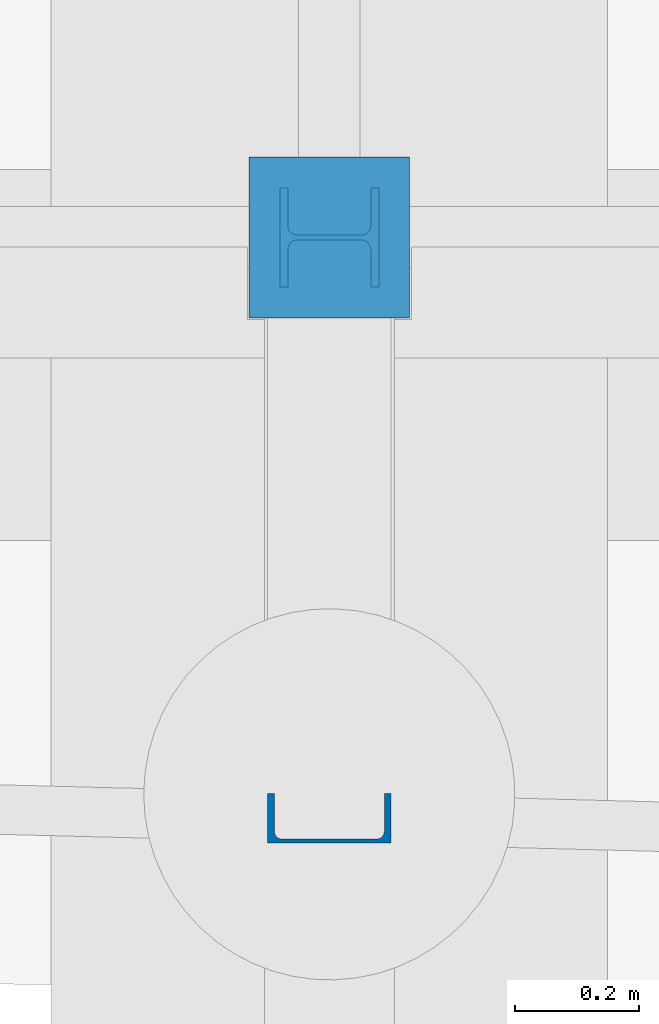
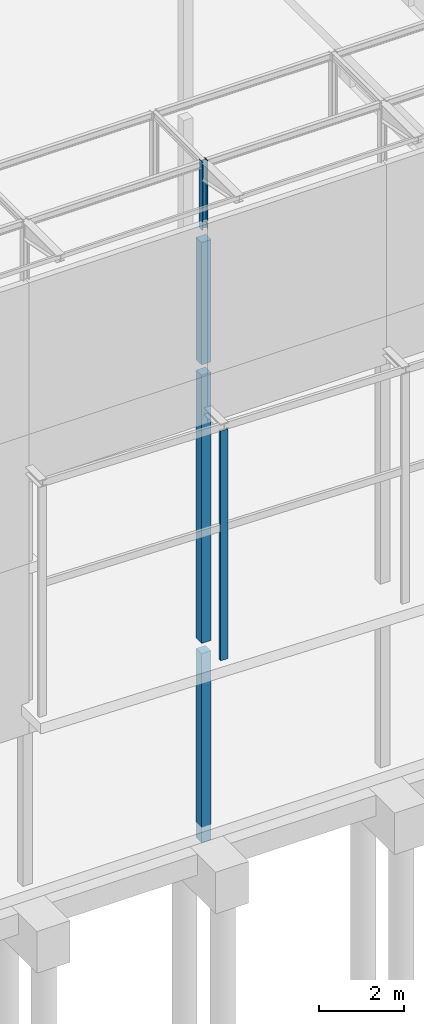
# One storey, part 7 of 82: 5 columns.
"""IFC2X3 building model written with IfcOpenShell, lengths in millimetres."""

from ifc_helpers import new_model, si_unit, frame, frame_2d, origin_with_axes, place, context, subcontext, project, spatial, rectangle, i_section, u_section, extrude, material, type_object, element, save


model = new_model("IFC2X3")

# Units and contexts
model_context = context("Model", 3, precision=1e-05, world=origin_with_axes())
body_context = subcontext(model_context, "Body", "Model", "MODEL_VIEW")
ifc_project = project(units=[si_unit("LENGTHUNIT", "METRE", prefix="MILLI"), si_unit("AREAUNIT", "SQUARE_METRE"), si_unit("VOLUMEUNIT", "CUBIC_METRE"), si_unit("MASSUNIT", "GRAM", prefix="KILO"), si_unit("TIMEUNIT", "SECOND"), si_unit("PLANEANGLEUNIT", "RADIAN"), si_unit("SOLIDANGLEUNIT", "STERADIAN"), si_unit("THERMODYNAMICTEMPERATUREUNIT", "DEGREE_CELSIUS"), si_unit("LUMINOUSINTENSITYUNIT", "LUMEN")], contexts=[model_context])

# Site, building, storey
site_placement = place(None, origin_with_axes())
site = spatial("IfcSite", under=ifc_project, at=site_placement, Name="Undefined", CompositionType="ELEMENT")
building_placement = place(site_placement, origin_with_axes())
building = spatial("IfcBuilding", under=site, at=building_placement, Name="Undefined", CompositionType="ELEMENT")
storey_placement = place(building_placement, origin_with_axes())
storey = spatial("IfcBuildingStorey", under=building, at=storey_placement, Name="Undefined", CompositionType="ELEMENT", Elevation=0.0)

# Columns
ifc_material_1 = material(Name="CONCRETE/C25/30")
column_type_1 = type_object("IfcColumnType", Name="260*260", PredefinedType="NOTDEFINED")
column_1_placement = place(storey_placement, frame((14624.9999999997, 5.71984060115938e-09, 13330.0), z_axis=(0.0, 0.0, 1.0), x_axis=(1.0, 0.0, 0.0)))
element("IfcColumn", 1, at=column_1_placement, inside=storey, type_object=column_type_1, material=ifc_material_1, Name="POTEAU", ObjectType="260*260", context=body_context, shape_type="SweptSolid", body=[
    extrude(rectangle(XDim=260.0, YDim=260.0, at=frame_2d((5.17284206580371e-08, 4.49290382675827e-10), x_axis=(1.0, 0.0))), frame((0.0, 0.0, 3529.99999999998), z_axis=(0.0, -6.50000002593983e-08, -0.999999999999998), x_axis=(-1.0, 0.0, 0.0)), (0.0, 0.0, 1.0), 3530.0),
])
column_2_placement = place(storey_placement, frame((14624.9999999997, 5.71984060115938e-09, 5300.0), z_axis=(0.0, 0.0, 1.0), x_axis=(1.0, 0.0, 0.0)))
element("IfcColumn", 2, at=column_2_placement, inside=storey, type_object=column_type_1, material=ifc_material_1, Name="POTEAU", ObjectType="260*260", context=body_context, shape_type="SweptSolid", body=[
    extrude(rectangle(XDim=260.0, YDim=260.0, at=frame_2d((5.17284206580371e-08, 4.49290382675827e-10), x_axis=(1.0, 0.0))), frame((0.0, 0.0, 7730.0), z_axis=(0.0, -6.50000002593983e-08, -0.999999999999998), x_axis=(-1.0, 0.0, 0.0)), (0.0, 0.0, 1.0), 7730.0),
])
column_3_placement = place(storey_placement, frame((14624.9999999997, 5.71984060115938e-09, -450.0), z_axis=(0.0, 0.0, 1.0), x_axis=(1.0, 0.0, 0.0)))
element("IfcColumn", 3, at=column_3_placement, inside=storey, type_object=column_type_1, material=ifc_material_1, Name="POTEAU", ObjectType="260*260", context=body_context, shape_type="SweptSolid", body=[
    extrude(rectangle(XDim=260.0, YDim=260.0, at=frame_2d((5.17284206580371e-08, 4.49290382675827e-10), x_axis=(1.0, 0.0))), frame((0.0, 0.0, 5450.00000000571), z_axis=(0.0, -6.50000002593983e-08, -0.999999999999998), x_axis=(-1.0, 0.0, 0.0)), (0.0, 0.0, 1.0), 5450.0),
])
ifc_material_2 = material(Name="STEEL/S275JR")
column_type_2 = type_object("IfcColumnType", Name="HEB160", PredefinedType="NOTDEFINED")
column_4_placement = place(storey_placement, frame((14624.9999999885, -3.26285487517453e-08, 17160.0), z_axis=(0.0, 0.0, 1.0), x_axis=(1.0, 0.0, 0.0)))
element("IfcColumn", 4, at=column_4_placement, inside=storey, type_object=column_type_2, material=ifc_material_2, Name="POTEAU", ObjectType="HEB160", context=body_context, shape_type="SweptSolid", body=[
    extrude(i_section(OverallWidth=160.0, OverallDepth=160.0, WebThickness=8.0, FlangeThickness=13.0, FilletRadius=15.0, at=frame_2d((5.17284206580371e-08, 4.49290382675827e-10), x_axis=(1.0, 0.0))), frame((0.0, 0.0, 1965.0), z_axis=(0.0, -6.50000002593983e-08, -0.999999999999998), x_axis=(-2.77555756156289e-17, -1.0, 0.0)), (0.0, 0.0, 1.0), 1965.0),
])
column_type_3 = type_object("IfcColumnType", Name="UPE200", PredefinedType="NOTDEFINED")
column_5_placement = place(storey_placement, frame((14624.9999987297, -938.468573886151, 5300.00000000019), z_axis=(0.0, 0.0, 1.0), x_axis=(1.0, 0.0, 0.0)))
element("IfcColumn", 5, at=column_5_placement, inside=storey, type_object=column_type_3, material=ifc_material_2, Name="POUTRE", ObjectType="UPE200", context=body_context, shape_type="SweptSolid", body=[
    extrude(u_section(Depth=200.0, FlangeWidth=80.0, WebThickness=6.0, FlangeThickness=11.0, FilletRadius=13.0, at=frame_2d((5.17284206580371e-08, 4.49290382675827e-10), x_axis=(1.0, 0.0))), frame((0.0, 0.0, 6625.00000000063), z_axis=(0.0, -6.50000002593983e-08, -0.999999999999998), x_axis=(0.0, 1.0, 0.0)), (0.0, 0.0, 1.0), 6625.0),
])

save(model, "model.ifc")
